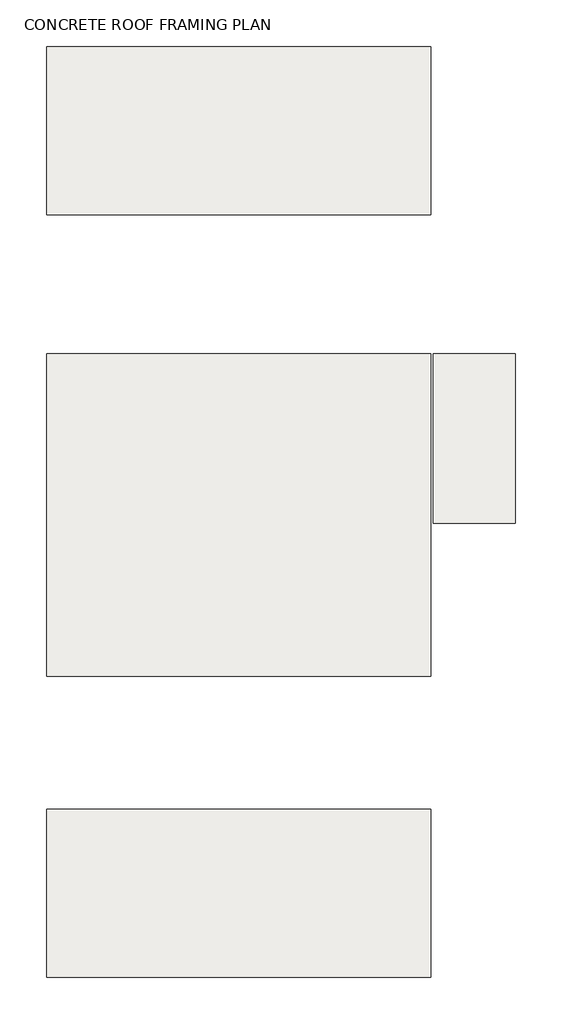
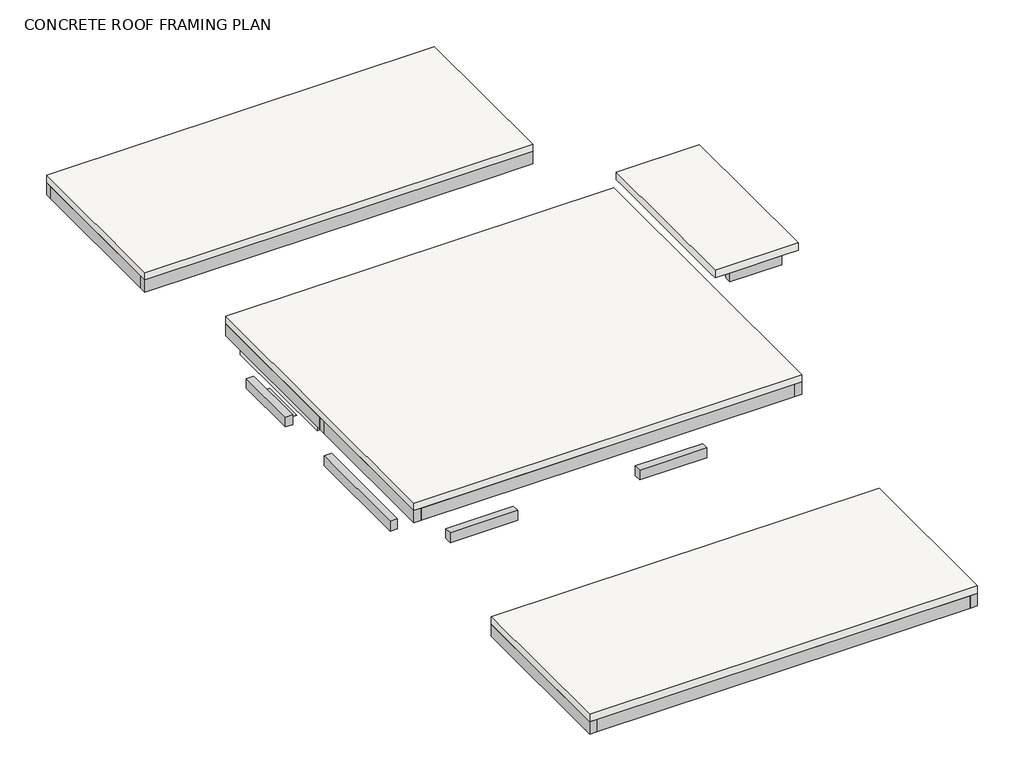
# One storey: 23 beams, 5 slabs.
"""IFC4 building model written with IfcOpenShell, lengths in millimetres."""

from ifc_helpers import new_model, si_unit, frame, origin, place, context, project, spatial, polyline, outline, extrude, faceted_brep, element, save

model = new_model("IFC4")

# Units and contexts
model_context = context("Model", 3, world=origin())
ifc_project = project(units=[si_unit("LENGTHUNIT", "METRE", prefix="MILLI")], contexts=[model_context])

# Site, building, storey
site = spatial("IfcSite", under=ifc_project)
building = spatial("IfcBuilding", under=site)
storey = spatial("IfcBuildingStorey", under=building, Name="CONCRETE ROOF FRAMING PLAN", Elevation=3048.0)

# Beams
placement = place(None, origin())
element("IfcBeam", 1, ObjectType="Concrete-Rectangular Beam : 5 5/8 x 14", at=placement, inside=storey, context=model_context, shape_type="SweptSolid", body=[
    extrude(outline(polyline([(6864.35, 6391.2749888), (6864.35, 6248.3999888), (2978.15, 6248.3999888), (2978.15, 6391.2749888), (6864.35, 6391.2749888)])), frame((0.0, 0.0, 2438.4), z_axis=(0.0, 0.0, 1.0), x_axis=(1.0, 0.0, 0.0)), (0.0, 0.0, 1.0), 355.6),
])
element("IfcBeam", 2, ObjectType="Concrete-Rectangular Beam : 5 5/8 x 16", at=placement, inside=storey, context=model_context, shape_type="Brep", body=[
    faceted_brep([(9.525, 3052.7625, 2794.0), (152.4, 3052.7625, 2794.0), (3606.8, 3052.7625, 2794.0), (5384.8, 3052.7625, 2794.0), (7467.6, 3052.7625, 2794.0), (7610.475, 3052.7625, 2794.0), (7610.475, 3052.7625, 3048.0), (7467.6, 3052.7625, 3048.0), (152.4, 3052.7625, 3048.0), (9.525, 3052.7625, 3048.0), (7610.475, 3195.6375, 2794.0), (9.525, 3195.6375, 2794.0), (152.4, 3195.6375, 2794.0), (3606.8, 3195.6375, 2794.0), (5384.8, 3195.6375, 2794.0), (7467.6, 3195.6375, 2794.0), (9.525, 3195.6375, 3048.0), (152.4, 3195.6375, 3048.0), (7467.6, 3195.6375, 3048.0), (7610.475, 3195.6375, 3048.0)], [[[0, 1, 2, 3, 4, 5, 6, 7, 8, 9]], [[10, 5, 4, 3, 2, 1, 0, 11, 12, 13, 14, 15]], [[10, 15, 14, 13, 12, 11, 16, 17, 18, 19]], [[5, 10, 19, 6]], [[11, 0, 9, 16]], [[9, 8, 7, 6, 19, 18, 17, 16]]]),
])
element("IfcBeam", 3, ObjectType="Concrete-Rectangular Beam : 5 5/8 x 16", at=placement, inside=storey, context=model_context, shape_type="SweptSolid", body=[
    extrude(outline(polyline([(9.525, 12331.2382667), (152.4, 12331.2382667), (152.4, 9283.2382667), (9.525, 9283.2382667), (9.525, 12331.2382667)])), frame((0.0, 0.0, 2032.0), z_axis=(0.0, 0.0, 1.0), x_axis=(1.0, 0.0, 0.0)), (0.0, 0.0, 1.0), 254.0),
])
element("IfcBeam", 4, ObjectType="Concrete-Rectangular Beam : 5 5/8 x 16", at=placement, inside=storey, context=model_context, shape_type="Brep", body=[
    faceted_brep([(9.525, -5810.2905549, 2031.0750123), (9.525, -5810.2905549, 2031.5384896), (9.525, -5953.1655549, 2031.5384896), (9.525, -5953.1655549, 2286.0), (9.525, -2619.4155437, 2286.0), (9.525, -2619.4155437, 2032.0), (9.525, -2762.2905437, 2032.0), (9.525, -2762.2905437, 2031.0750123), (152.4, -5810.2905549, 2031.0750123), (152.4, -2762.2905437, 2031.0750123), (152.4, -5810.2905549, 2031.5384896), (152.4, -2762.2905437, 2032.0), (152.4, -2619.4155437, 2032.0), (152.4, -2619.4155437, 2286.0), (152.4, -2762.2905437, 2286.0), (152.4, -5810.2905549, 2286.0), (152.4, -5953.1655549, 2286.0), (152.4, -5953.1655549, 2032.0), (152.4, -5953.1655549, 2031.5384896)], [[[0, 1, 2, 3, 4, 5, 6, 7]], [[8, 0, 7, 9]], [[10, 8, 9, 11, 12, 13, 14, 15, 16, 17, 18]], [[12, 5, 4, 13]], [[2, 18, 17, 16, 3]], [[1, 0, 8, 10]], [[2, 1, 10, 18]], [[6, 11, 9, 7]], [[11, 6, 5, 12]], [[4, 3, 16, 15, 14, 13]]]),
])
element("IfcBeam", 5, ObjectType="Concrete-Rectangular Beam : 5 5/8 x 16", at=placement, inside=storey, context=model_context, shape_type="Brep", body=[
    faceted_brep([(7467.6, -2619.4155437, 2032.0), (3009.9, -2619.4155437, 2032.0), (152.4, -2619.4155437, 2032.0), (152.4, -2619.4155437, 2286.0), (7467.6, -2619.4155437, 2286.0), (7467.6, -2762.2905437, 2032.0), (3009.9, -2762.2905437, 2032.0), (152.4, -2762.2905437, 2032.0), (7467.6, -2762.2905437, 2286.0), (152.4, -2762.2905437, 2286.0)], [[[0, 1, 2, 3, 4]], [[0, 5, 6, 7, 2, 1]], [[7, 6, 5, 8, 9]], [[5, 0, 4, 8]], [[2, 7, 9, 3]], [[4, 3, 9, 8]]]),
])
element("IfcBeam", 6, ObjectType="Concrete-Rectangular Beam : 5 5/8 x 16", at=placement, inside=storey, context=model_context, shape_type="Brep", body=[
    faceted_brep([(7467.6, -2619.4155437, 2032.0), (7467.6, -2762.2905437, 2032.0), (7467.6, -3838.6155549, 2032.0), (7467.6, -4753.0155549, 2032.0), (7467.6, -5810.2905549, 2032.0), (7467.6, -5953.1655549, 2032.0), (7467.6, -5953.1655549, 2286.0), (7467.6, -5810.2905549, 2286.0), (7467.6, -2762.2905437, 2286.0), (7467.6, -2619.4155437, 2286.0), (7610.475, -2619.4155437, 2032.0), (7610.475, -3838.6155549, 2032.0), (7610.475, -4753.0155549, 2032.0), (7610.475, -5810.2905549, 2032.0), (7610.475, -5953.1655549, 2032.0), (7610.475, -2619.4155437, 2286.0), (7610.475, -5953.1655549, 2286.0)], [[[0, 1, 2, 3, 4, 5, 6, 7, 8, 9]], [[0, 10, 11, 12, 13, 14, 5, 4, 3, 2, 1]], [[14, 13, 12, 11, 10, 15, 16]], [[10, 0, 9, 15]], [[5, 14, 16, 6]], [[9, 8, 7, 6, 16, 15]]]),
])
element("IfcBeam", 7, ObjectType="Concrete-Rectangular Beam : 5 5/8 x 16", at=placement, inside=storey, context=model_context, shape_type="SweptSolid", body=[
    extrude(outline(polyline([(346.075, 5486.3999888), (346.075, 4571.9999888), (203.2, 4571.9999888), (203.2, 5486.3999888), (346.075, 5486.3999888)])), frame((0.0, 0.0, 2133.6), z_axis=(0.0, 0.0, 1.0), x_axis=(1.0, 0.0, 0.0)), (0.0, 0.0, 1.0), 2.0092442),
])
element("IfcBeam", 8, ObjectType="Concrete-Rectangular Beam : 5 5/8 x 16", at=placement, inside=storey, context=model_context, shape_type="SweptSolid", body=[
    extrude(outline(polyline([(152.4, -5953.1655549), (152.4, -5810.2905549), (7467.6, -5810.2905549), (7467.6, -5953.1655549), (152.4, -5953.1655549)])), frame((0.0, 0.0, 2032.0), z_axis=(0.0, 0.0, 1.0), x_axis=(1.0, 0.0, 0.0)), (0.0, 0.0, 1.0), 254.0),
])
element("IfcBeam", 9, ObjectType="Concrete-Rectangular Beam : 5 5/8 x 16", at=placement, inside=storey, context=model_context, shape_type="Brep", body=[
    faceted_brep([(7610.475, 12474.1132667, 2032.0), (7467.6, 12474.1132667, 2032.0), (9.525, 12474.1132667, 2032.0), (9.525, 12474.1132667, 2286.0), (7610.475, 12474.1132667, 2286.0), (7610.475, 12331.2382667, 2032.0), (7467.6, 12331.2382667, 2032.0), (152.4, 12331.2382667, 2032.0), (9.525, 12331.2382667, 2032.0), (7610.475, 12331.2382667, 2286.0), (7467.6, 12331.2382667, 2286.0), (152.4, 12331.2382667, 2286.0), (9.525, 12331.2382667, 2286.0)], [[[0, 1, 2, 3, 4]], [[2, 1, 0, 5, 6, 7, 8]], [[8, 7, 6, 5, 9, 10, 11, 12]], [[5, 0, 4, 9]], [[2, 8, 12, 3]], [[4, 3, 12, 11, 10, 9]]]),
])
element("IfcBeam", 10, ObjectType="Concrete-Rectangular Beam : 5 5/8 x 16", at=placement, inside=storey, context=model_context, shape_type="Brep", body=[
    faceted_brep([(7467.6, 9283.2382667, 2032.0), (7467.6, 9283.2382667, 2032.4732556), (6705.6, 9283.2382667, 2032.4732556), (6705.6, 9283.2382667, 2032.0), (152.4, 9283.2382667, 2032.0), (9.525, 9283.2382667, 2032.0), (9.525, 9283.2382667, 2286.0), (152.4, 9283.2382667, 2286.0), (7467.6, 9283.2382667, 2286.0), (7610.475, 9283.2382667, 2286.0), (7610.475, 9283.2382667, 2032.0), (7467.6, 9140.3632667, 2032.0), (7610.475, 9140.3632667, 2032.0), (7467.6, 9140.3632667, 2032.4732556), (7610.475, 9140.3632667, 2286.0), (9.525, 9140.3632667, 2286.0), (9.525, 9140.3632667, 2032.0), (6705.6, 9140.3632667, 2032.0), (6705.6, 9140.3632667, 2032.4732556)], [[[0, 1, 2, 3, 4, 5, 6, 7, 8, 9, 10]], [[11, 0, 10, 12]], [[13, 11, 12, 14, 15, 16, 17, 18]], [[5, 16, 15, 6]], [[3, 2, 18, 17]], [[1, 0, 11, 13]], [[18, 2, 1, 13]], [[12, 10, 9, 14]], [[16, 5, 4, 3, 17]], [[9, 8, 7, 6, 15, 14]]]),
])
element("IfcBeam", 11, ObjectType="Concrete-Rectangular Beam : 5 5/8 x 16", at=placement, inside=storey, context=model_context, shape_type="Brep", body=[
    faceted_brep([(7467.6, 12331.2382667, 2032.0), (7467.6, 9283.2382667, 2032.0), (7467.6, 9283.2382667, 2032.4732556), (7467.6, 9283.2382667, 2286.0), (7467.6, 12331.2382667, 2286.0), (7610.475, 9283.2382667, 2032.0), (7610.475, 12331.2382667, 2032.0), (7610.475, 12331.2382667, 2286.0), (7610.475, 9283.2382667, 2286.0)], [[[0, 1, 2, 3, 4]], [[5, 1, 0, 6]], [[5, 6, 7, 8]], [[1, 5, 8, 3, 2]], [[6, 0, 4, 7]], [[4, 3, 8, 7]]]),
])
element("IfcBeam", 12, ObjectType="Concrete-Rectangular Beam : 5 5/8 x 16", at=placement, inside=storey, context=model_context, shape_type="Brep", body=[
    faceted_brep([(9.525, 3052.7625, 2794.0), (9.525, 9.525, 2794.0), (9.525, 9.525, 3048.0), (9.525, 3052.7625, 3048.0), (152.4, 9.525, 2794.0), (152.4, 3052.7625, 2794.0), (152.4, 152.4, 2794.0), (152.4, 3052.7625, 3048.0), (152.4, 152.4, 3048.0), (152.4, 9.525, 3048.0)], [[[0, 1, 2, 3]], [[4, 1, 0, 5, 6]], [[4, 6, 5, 7, 8, 9]], [[1, 4, 9, 2]], [[5, 0, 3, 7]], [[3, 2, 9, 8, 7]]]),
    faceted_brep([(152.4, 6391.2749888, 2794.0), (9.525, 6391.2749888, 2794.0), (9.525, 6391.2749888, 3048.0), (152.4, 6391.2749888, 3048.0), (9.525, 3195.6375, 2794.0), (152.4, 3195.6375, 2794.0), (152.4, 3195.6375, 3048.0), (9.525, 3195.6375, 3048.0)], [[[0, 1, 2, 3]], [[4, 5, 6, 7]], [[1, 4, 7, 2]], [[1, 0, 5, 4]], [[5, 0, 3, 6]], [[3, 2, 7, 6]]]),
])
element("IfcBeam", 13, ObjectType="Concrete-Rectangular Beam : 5 5/8 x 16", at=placement, inside=storey, context=model_context, shape_type="Brep", body=[
    faceted_brep([(7467.6, 3052.7625, 2794.0), (7467.6, 152.4, 2794.0), (7467.6, 9.525, 2794.0), (7467.6, 9.525, 3048.0), (7467.6, 152.4, 3048.0), (7467.6, 3052.7625, 3048.0), (7610.475, 9.525, 2794.0), (7610.475, 3052.7625, 2794.0), (7610.475, 3052.7625, 3048.0), (7610.475, 9.525, 3048.0)], [[[0, 1, 2, 3, 4, 5]], [[6, 2, 1, 0, 7]], [[6, 7, 8, 9]], [[2, 6, 9, 3]], [[7, 0, 5, 8]], [[5, 4, 3, 9, 8]]]),
    faceted_brep([(7467.6, 6248.4, 2794.0), (7467.6, 6248.4, 3048.0), (7610.475, 6248.4, 3048.0), (7610.475, 6248.4, 2794.0), (7467.6, 3195.6375, 2794.0), (7610.475, 3195.6375, 2794.0), (7610.475, 3195.6375, 3048.0), (7467.6, 3195.6375, 3048.0)], [[[0, 1, 2, 3]], [[4, 5, 6, 7]], [[1, 0, 4, 7]], [[0, 3, 5, 4]], [[3, 2, 6, 5]], [[2, 1, 7, 6]]]),
])
element("IfcBeam", 14, ObjectType="Concrete-Rectangular Beam : 5 5/8 x 16", at=placement, inside=storey, context=model_context, shape_type="Brep", body=[
    faceted_brep([(152.4, 9.525, 2794.0), (3387.725, 9.525, 2794.0), (7467.6, 9.525, 2794.0), (7467.6, 9.525, 3048.0), (152.4, 9.525, 3048.0), (152.4, 152.4, 2794.0), (3387.725, 152.4, 2794.0), (7467.6, 152.4, 2794.0), (152.4, 152.4, 3048.0), (7467.6, 152.4, 3048.0)], [[[0, 1, 2, 3, 4]], [[0, 5, 6, 7, 2, 1]], [[7, 6, 5, 8, 9]], [[5, 0, 4, 8]], [[2, 7, 9, 3]], [[4, 3, 9, 8]]]),
])
element("IfcBeam", 15, ObjectType="Concrete-Rectangular Beam : 5 5/8 x 16", at=placement, inside=storey, context=model_context, shape_type="SweptSolid", body=[
    extrude(outline(polyline([(7467.6, 6391.275), (7467.6, 6248.4), (2978.15, 6248.4), (2978.15, 6391.275), (7467.6, 6391.275)])), frame((0.0, 0.0, 2794.0), z_axis=(0.0, 0.0, 1.0), x_axis=(1.0, 0.0, 0.0)), (0.0, 0.0, 1.0), 254.0),
])
element("IfcBeam", 16, ObjectType="Concrete-Rectangular Beam : 5 5/8 x 8", at=placement, inside=storey, context=model_context, shape_type="SweptSolid", body=[
    extrude(outline(polyline([(152.4, 4368.8), (9.525, 4368.8), (9.525, 5689.6), (152.4, 5689.6), (152.4, 4368.8)])), frame((0.0, 0.0, 2133.6), z_axis=(0.0, 0.0, 1.0), x_axis=(1.0, 0.0, 0.0)), (0.0, 0.0, 1.0), 203.2),
])
element("IfcBeam", 17, ObjectType="Concrete-Rectangular Beam : 5 5/8 x 8", at=placement, inside=storey, context=model_context, shape_type="SweptSolid", body=[
    extrude(outline(polyline([(5753.1, 152.4), (5753.1, 9.525), (4432.3, 9.525), (4432.3, 152.4), (5753.1, 152.4)])), frame((0.0, 0.0, 2133.6), z_axis=(0.0, 0.0, 1.0), x_axis=(1.0, 0.0, 0.0)), (0.0, 0.0, 1.0), 203.2),
])
element("IfcBeam", 18, ObjectType="Concrete-Rectangular Beam : 5 5/8 x 8", at=placement, inside=storey, context=model_context, shape_type="SweptSolid", body=[
    extrude(outline(polyline([(152.4, 812.8000536), (9.525, 812.8000536), (9.525, 3048.0000536), (152.4, 3048.0000536), (152.4, 812.8000536)])), frame((0.0, 0.0, 2133.6), z_axis=(0.0, 0.0, 1.0), x_axis=(1.0, 0.0, 0.0)), (0.0, 0.0, 1.0), 203.2),
])
element("IfcBeam", 19, ObjectType="Concrete-Rectangular Beam : 5 5/8 x 8", at=placement, inside=storey, context=model_context, shape_type="SweptSolid", body=[
    extrude(outline(polyline([(7610.475, 3822.8258667), (7467.6, 3822.8258667), (7467.6, 5956.4258667), (7610.475, 5956.4258667), (7610.475, 3822.8258667)])), frame((0.0, 0.0, 2133.6), z_axis=(0.0, 0.0, 1.0), x_axis=(1.0, 0.0, 0.0)), (0.0, 0.0, 1.0), 203.2),
])
element("IfcBeam", 20, ObjectType="Concrete-Rectangular Beam : 5 5/8 x 8", at=placement, inside=storey, context=model_context, shape_type="SweptSolid", body=[
    extrude(outline(polyline([(7610.475, 1071.5625), (7467.6, 1071.5625), (7467.6, 3205.1625), (7610.475, 3205.1625), (7610.475, 1071.5625)])), frame((0.0, 0.0, 2133.6), z_axis=(0.0, 0.0, 1.0), x_axis=(1.0, 0.0, 0.0)), (0.0, 0.0, 1.0), 203.2),
])
element("IfcBeam", 21, ObjectType="Concrete-Rectangular Beam : 5 5/8 x 8", at=placement, inside=storey, context=model_context, shape_type="SweptSolid", body=[
    extrude(outline(polyline([(2041.525, 152.4), (2041.525, 9.525), (720.725, 9.525), (720.725, 152.4), (2041.525, 152.4)])), frame((0.0, 0.0, 2133.6), z_axis=(0.0, 0.0, 1.0), x_axis=(1.0, 0.0, 0.0)), (0.0, 0.0, 1.0), 203.2),
])
element("IfcBeam", 22, ObjectType="Concrete-Rectangular Beam : 5 5/8 x 8", at=placement, inside=storey, context=model_context, shape_type="Brep", body=[
    faceted_brep([(8982.075, 3063.875, 3352.8), (8982.075, 3206.75, 3352.8), (7966.075, 3206.75, 3352.8), (7966.075, 3063.875, 3352.8), (8982.075, 3063.875, 3149.6), (7966.075, 3063.875, 3149.6), (8982.075, 3206.75, 3149.6), (8982.075, 3181.35, 3149.6), (7966.075, 3181.35, 3149.6), (7966.075, 3206.75, 3149.6)], [[[0, 1, 2, 3]], [[4, 0, 3, 5]], [[6, 7, 4, 5, 8, 9]], [[1, 6, 9, 2]], [[1, 0, 4, 7, 6]], [[3, 2, 9, 8, 5]]]),
])
element("IfcBeam", 23, ObjectType="Concrete-Rectangular Beam : 5 5/8 x 8", at=placement, inside=storey, context=model_context, shape_type="Brep", body=[
    faceted_brep([(7966.075, 6365.875, 3352.8), (7966.075, 6223.0, 3352.8), (8982.075, 6223.0, 3352.8), (8982.075, 6365.875, 3352.8), (7966.075, 6223.0, 3149.6), (8982.075, 6223.0, 3149.6), (7966.075, 6248.4, 3149.6), (7966.075, 6365.875, 3149.6), (8982.075, 6365.875, 3149.6), (8982.075, 6248.4, 3149.6)], [[[0, 1, 2, 3]], [[1, 4, 5, 2]], [[4, 6, 7, 8, 9, 5]], [[7, 0, 3, 8]], [[4, 1, 0, 7, 6]], [[3, 2, 5, 9, 8]]]),
])

# Slabs
element("IfcSlab", 24, ObjectType="6\" Concrete", at=placement, inside=storey, context=model_context, shape_type="Brep", body=[
    faceted_brep([(7661.275, 3038.475, 3352.8), (7661.275, 3232.15, 3352.8), (7661.275, 6197.6, 3352.8), (7661.275, 6391.275, 3352.8), (7966.075, 6391.275, 3352.8), (8982.075, 6391.275, 3352.8), (9286.875, 6391.275, 3352.8), (9286.875, 6197.6, 3352.8), (9286.875, 3232.15, 3352.8), (9286.875, 3038.475, 3352.8), (8982.075, 3038.475, 3352.8), (7966.075, 3038.475, 3352.8), (7661.275, 3038.475, 3505.2), (9286.875, 3038.475, 3505.2), (9286.875, 6391.275, 3505.2), (7661.275, 6391.275, 3505.2)], [[[0, 1, 2, 3, 4, 5, 6, 7, 8, 9, 10, 11]], [[12, 13, 14, 15]], [[3, 2, 1, 0, 12, 15]], [[6, 5, 4, 3, 15, 14]], [[9, 8, 7, 6, 14, 13]], [[0, 11, 10, 9, 13, 12]]]),
])
element("IfcSlab", 25, ObjectType="6\" Concrete", at=placement, inside=storey, context=model_context, shape_type="SweptSolid", body=[
    extrude(outline(polyline([(203.2, 3625.85), (203.2, 6229.3499888), (2978.15, 6229.3499888), (2978.15, 3625.85), (203.2, 3625.85)])), frame((0.0, 0.0, 2438.4), z_axis=(0.0, 0.0, 1.0), x_axis=(1.0, 0.0, 0.0)), (0.0, 0.0, 1.0), 152.4),
])
element("IfcSlab", 26, ObjectType="6\" Concrete", at=placement, inside=storey, context=model_context, shape_type="Brep", body=[
    faceted_brep([(7610.475, 6391.2749888, 3048.0), (7610.475, 6248.4, 3048.0), (7610.475, 3195.6375, 3048.0), (7610.475, 3052.7625, 3048.0), (7610.475, 9.525, 3048.0), (7467.6, 9.525, 3048.0), (152.4, 9.525, 3048.0), (9.525, 9.525, 3048.0), (9.525, 3052.7625, 3048.0), (9.525, 3195.6375, 3048.0), (9.525, 6391.2749888, 3048.0), (152.4, 6391.2749888, 3048.0), (7610.475, 6391.2749888, 3200.4), (9.525, 6391.2749888, 3200.4), (9.525, 9.525, 3200.4), (7610.475, 9.525, 3200.4)], [[[0, 1, 2, 3, 4, 5, 6, 7, 8, 9, 10, 11]], [[12, 13, 14, 15]], [[4, 3, 2, 1, 0, 12, 15]], [[7, 6, 5, 4, 15, 14]], [[10, 9, 8, 7, 14, 13]], [[0, 11, 10, 13, 12]]]),
])
element("IfcSlab", 27, ObjectType="6\" Concrete", at=placement, inside=storey, context=model_context, shape_type="Brep", body=[
    faceted_brep([(7610.475, 12474.1132667, 2286.0), (7610.475, 12331.2382667, 2286.0), (7610.475, 9283.2382667, 2286.0), (7610.475, 9140.3632667, 2286.0), (9.525, 9140.3632667, 2286.0), (9.525, 9283.2382667, 2286.0), (9.525, 12331.2382667, 2286.0), (9.525, 12474.1132667, 2286.0), (7610.475, 12474.1132667, 2438.4), (9.525, 12474.1132667, 2438.4), (9.525, 9140.3632667, 2438.4), (7610.475, 9140.3632667, 2438.4)], [[[0, 1, 2, 3, 4, 5, 6, 7]], [[8, 9, 10, 11]], [[3, 2, 1, 0, 8, 11]], [[4, 3, 11, 10]], [[7, 6, 5, 4, 10, 9]], [[0, 7, 9, 8]]]),
])
element("IfcSlab", 28, ObjectType="6\" Concrete", at=placement, inside=storey, context=model_context, shape_type="Brep", body=[
    faceted_brep([(7610.475, -2619.4155437, 2286.0), (7610.475, -5953.1655437, 2286.0), (9.525, -5953.1655437, 2286.0), (9.525, -2619.4155437, 2286.0), (152.4, -2619.4155437, 2286.0), (7467.6, -2619.4155437, 2286.0), (7610.475, -2619.4155437, 2438.4), (9.525, -2619.4155437, 2438.4), (9.525, -5953.1655437, 2438.4), (7610.475, -5953.1655437, 2438.4)], [[[0, 1, 2, 3, 4, 5]], [[6, 7, 8, 9]], [[1, 0, 6, 9]], [[2, 1, 9, 8]], [[3, 2, 8, 7]], [[0, 5, 4, 3, 7, 6]]]),
])

save(model, "model.ifc")
